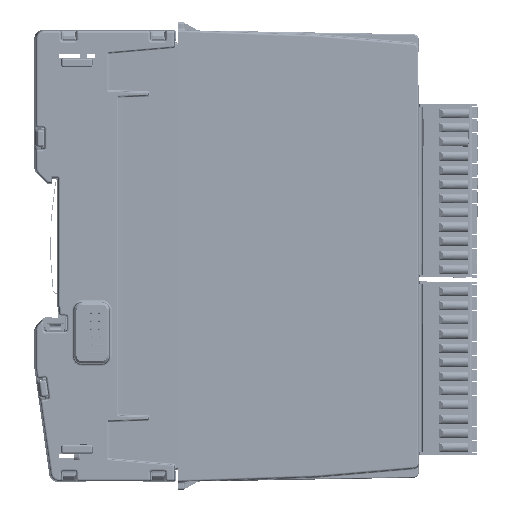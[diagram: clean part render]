
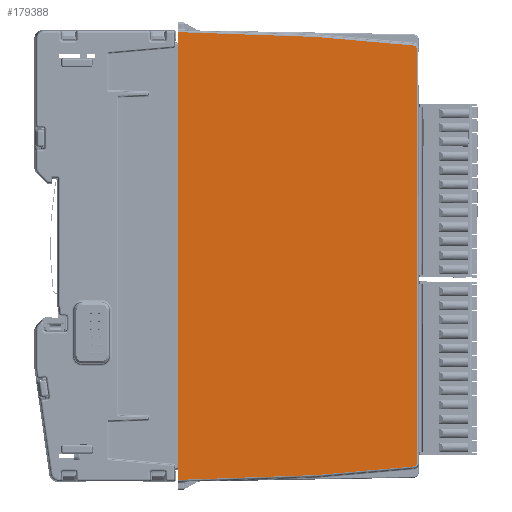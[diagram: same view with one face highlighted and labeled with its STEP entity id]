
A CAD part, left-side view. The second image highlights one B-rep face of the part: STEP entity #179388.
In plain terms, the highlighted planar face has unit normal (-1, -0.018, 0).
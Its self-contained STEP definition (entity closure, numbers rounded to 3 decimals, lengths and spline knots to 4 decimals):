
#16687=FACE_OUTER_BOUND('',#26634,.T.);
#26634=EDGE_LOOP('',(#141524,#141525,#141526,#141527,#141528,#141529,#141530,
#141531,#141532,#141533));
#42737=LINE('',#298476,#60399);
#42738=LINE('',#298478,#60400);
#42739=LINE('',#298480,#60401);
#42740=LINE('',#298482,#60402);
#42741=LINE('',#298484,#60403);
#42742=LINE('',#298488,#60404);
#42743=LINE('',#298492,#60405);
#42744=LINE('',#298493,#60406);
#60399=VECTOR('',#229389,39.3701);
#60400=VECTOR('',#229390,39.3701);
#60401=VECTOR('',#229391,39.3701);
#60402=VECTOR('',#229392,39.3701);
#60403=VECTOR('',#229393,39.3701);
#60404=VECTOR('',#229396,39.3701);
#60405=VECTOR('',#229399,39.3701);
#60406=VECTOR('',#229400,39.3701);
#66929=ELLIPSE('',#192699,0.0315,0.0315);
#66930=ELLIPSE('',#192700,0.0315,0.0315);
#78354=VERTEX_POINT('',#298474);
#78355=VERTEX_POINT('',#298475);
#78356=VERTEX_POINT('',#298477);
#78357=VERTEX_POINT('',#298479);
#78358=VERTEX_POINT('',#298481);
#78359=VERTEX_POINT('',#298483);
#78360=VERTEX_POINT('',#298485);
#78361=VERTEX_POINT('',#298487);
#78362=VERTEX_POINT('',#298489);
#78363=VERTEX_POINT('',#298491);
#100332=EDGE_CURVE('',#78354,#78355,#42737,.T.);
#100333=EDGE_CURVE('',#78356,#78355,#42738,.T.);
#100334=EDGE_CURVE('',#78356,#78357,#42739,.T.);
#100335=EDGE_CURVE('',#78357,#78358,#42740,.T.);
#100336=EDGE_CURVE('',#78358,#78359,#42741,.T.);
#100337=EDGE_CURVE('',#78359,#78360,#66929,.T.);
#100338=EDGE_CURVE('',#78360,#78361,#42742,.T.);
#100339=EDGE_CURVE('',#78361,#78362,#66930,.T.);
#100340=EDGE_CURVE('',#78362,#78363,#42743,.T.);
#100341=EDGE_CURVE('',#78363,#78354,#42744,.T.);
#141524=ORIENTED_EDGE('',*,*,#100332,.T.);
#141525=ORIENTED_EDGE('',*,*,#100333,.F.);
#141526=ORIENTED_EDGE('',*,*,#100334,.T.);
#141527=ORIENTED_EDGE('',*,*,#100335,.T.);
#141528=ORIENTED_EDGE('',*,*,#100336,.T.);
#141529=ORIENTED_EDGE('',*,*,#100337,.T.);
#141530=ORIENTED_EDGE('',*,*,#100338,.T.);
#141531=ORIENTED_EDGE('',*,*,#100339,.T.);
#141532=ORIENTED_EDGE('',*,*,#100340,.T.);
#141533=ORIENTED_EDGE('',*,*,#100341,.T.);
#161747=PLANE('',#192698);
#179388=ADVANCED_FACE('',(#16687),#161747,.T.);
#192698=AXIS2_PLACEMENT_3D('',#298473,#229387,#229388);
#192699=AXIS2_PLACEMENT_3D('',#298486,#229394,#229395);
#192700=AXIS2_PLACEMENT_3D('',#298490,#229397,#229398);
#229387=DIRECTION('center_axis',(-1.,-0.017,
0.));
#229388=DIRECTION('ref_axis',(-0.017,1.,0.));
#229389=DIRECTION('',(0.,0.,-1.));
#229390=DIRECTION('',(0.,0.,1.));
#229391=DIRECTION('',(0.,0.,-1.));
#229392=DIRECTION('',(0.017,-0.999,0.035));
#229393=DIRECTION('',(0.017,-0.996,0.087));
#229394=DIRECTION('center_axis',(-1.,-0.017,
0.));
#229395=DIRECTION('ref_axis',(0.017,-1.,0.));
#229396=DIRECTION('',(0.,0.,1.));
#229397=DIRECTION('center_axis',(-1.,-0.017,
0.));
#229398=DIRECTION('ref_axis',(0.017,-1.,0.));
#229399=DIRECTION('',(-0.017,0.996,0.087));
#229400=DIRECTION('',(-0.017,0.999,0.035));
#298473=CARTESIAN_POINT('Origin',(-0.0296,-0.489,
-2.0669));
#298474=CARTESIAN_POINT('',(-0.0227,-0.8827,0.1083));
#298475=CARTESIAN_POINT('',(-0.0227,-0.8827,-0.0312));
#298476=CARTESIAN_POINT('',(-0.0227,-0.8827,0.128));
#298477=CARTESIAN_POINT('',(-0.0227,-0.8827,-4.1027));
#298478=CARTESIAN_POINT('',(-0.0227,-0.8827,-7.5932));
#298479=CARTESIAN_POINT('',(-0.0227,-0.8827,-4.2421));
#298480=CARTESIAN_POINT('',(-0.0227,-0.8827,0.128));
#298481=CARTESIAN_POINT('',(0.0007,-2.2205,-4.1954));
#298482=CARTESIAN_POINT('',(-0.0282,-0.5654,-4.2532));
#298483=CARTESIAN_POINT('',(0.0174,-3.1772,-4.1117));
#298484=CARTESIAN_POINT('',(-0.0261,-0.6869,-4.3296));
#298485=CARTESIAN_POINT('',(0.0179,-3.2059,-4.0803));
#298486=CARTESIAN_POINT('Origin',(0.0173,-3.1744,
-4.0803));
#298487=CARTESIAN_POINT('',(0.0179,-3.2059,-0.0535));
#298488=CARTESIAN_POINT('',(0.0179,-3.2059,-0.0535));
#298489=CARTESIAN_POINT('',(0.0174,-3.1772,-0.0221));
#298490=CARTESIAN_POINT('Origin',(0.0173,-3.1744,
-0.0535));
#298491=CARTESIAN_POINT('',(0.0007,-2.2205,0.0616));
#298492=CARTESIAN_POINT('',(-0.0261,-0.6869,0.1957));
#298493=CARTESIAN_POINT('',(-0.0282,-0.5654,0.1194));
